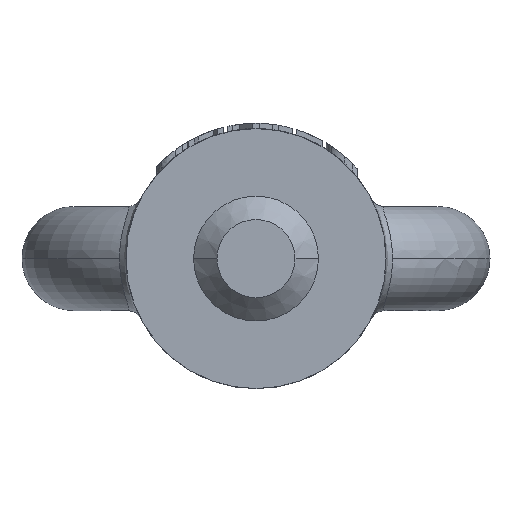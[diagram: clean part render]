
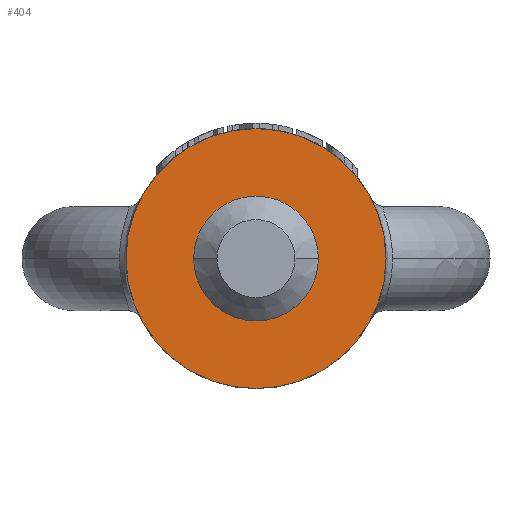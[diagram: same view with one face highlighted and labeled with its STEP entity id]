
A CAD part, front view. The second image highlights one B-rep face of the part: STEP entity #404.
In plain terms, the highlighted planar face has unit normal (0, -1, 0).
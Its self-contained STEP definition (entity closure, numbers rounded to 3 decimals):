
#404=ADVANCED_FACE('',(#814,#815),#816,.F.);
#814=FACE_OUTER_BOUND('',#1819,.T.);
#815=FACE_BOUND('',#1820,.T.);
#816=PLANE('',#1821);
#1819=EDGE_LOOP('',(#2855,#2856));
#1820=EDGE_LOOP('',(#2857,#2858));
#1821=AXIS2_PLACEMENT_3D('',#2859,#2860,#2861);
#2855=ORIENTED_EDGE('',*,*,#2910,.T.);
#2856=ORIENTED_EDGE('',*,*,#2990,.T.);
#2857=ORIENTED_EDGE('',*,*,#2927,.T.);
#2858=ORIENTED_EDGE('',*,*,#2954,.T.);
#2859=CARTESIAN_POINT('',(0.,-45.0,0.0));
#2860=DIRECTION('',(0.0,1.0,0.0));
#2861=DIRECTION('',(1.0,0.0,-0.0));
#2910=EDGE_CURVE('',#3395,#3392,#3396,.T.);
#2927=EDGE_CURVE('',#3425,#3422,#3426,.T.);
#2954=EDGE_CURVE('',#3422,#3425,#3462,.T.);
#2990=EDGE_CURVE('',#3392,#3395,#3505,.T.);
#3392=VERTEX_POINT('',#4212);
#3395=VERTEX_POINT('',#4216);
#3396=CIRCLE('',#4217,25.0);
#3422=VERTEX_POINT('',#4272);
#3425=VERTEX_POINT('',#4276);
#3426=CIRCLE('',#4277,9.8);
#3462=CIRCLE('',#4320,9.8);
#3505=CIRCLE('',#4539,25.0);
#4212=CARTESIAN_POINT('',(25.0,-45.0,0.));
#4216=CARTESIAN_POINT('',(-25.0,-45.0,0.));
#4217=AXIS2_PLACEMENT_3D('',#5782,#5783,#5784);
#4272=CARTESIAN_POINT('',(-9.8,-45.0,0.));
#4276=CARTESIAN_POINT('',(9.8,-45.0,0.));
#4277=AXIS2_PLACEMENT_3D('',#5808,#5809,#5810);
#4320=AXIS2_PLACEMENT_3D('',#5848,#5849,#5850);
#4539=AXIS2_PLACEMENT_3D('',#5884,#5885,#5886);
#5782=CARTESIAN_POINT('',(0.0,-45.0,0.0));
#5783=DIRECTION('',(0.0,-1.0,0.0));
#5784=DIRECTION('',(1.0,0.0,0.0));
#5808=CARTESIAN_POINT('',(0.0,-45.0,0.0));
#5809=DIRECTION('',(0.0,1.0,0.0));
#5810=DIRECTION('',(-1.0,0.0,0.0));
#5848=CARTESIAN_POINT('',(0.0,-45.0,0.0));
#5849=DIRECTION('',(0.0,1.0,0.0));
#5850=DIRECTION('',(-1.0,0.0,0.0));
#5884=CARTESIAN_POINT('',(0.0,-45.0,0.0));
#5885=DIRECTION('',(0.0,-1.0,0.0));
#5886=DIRECTION('',(1.0,0.0,0.0));
